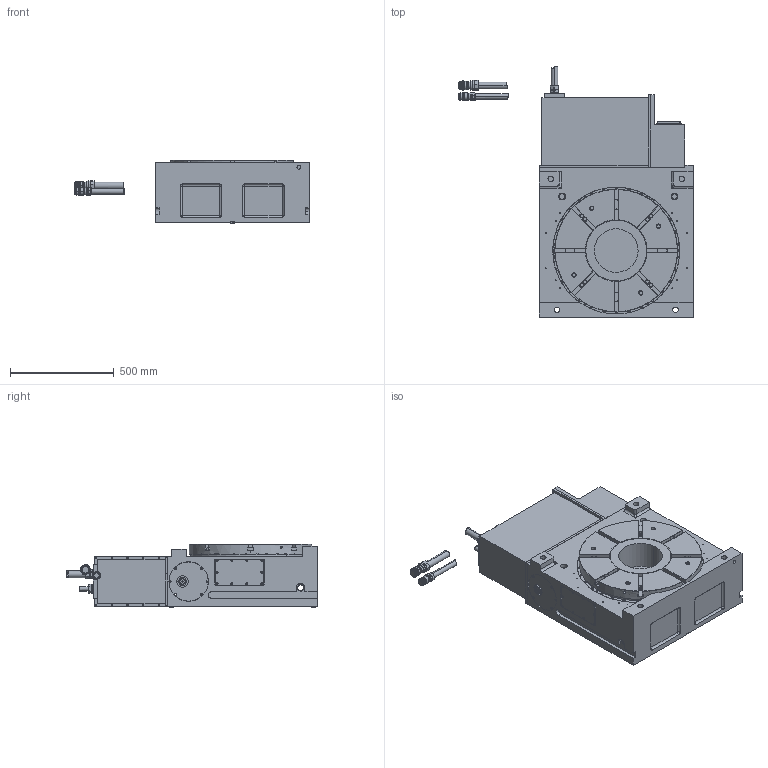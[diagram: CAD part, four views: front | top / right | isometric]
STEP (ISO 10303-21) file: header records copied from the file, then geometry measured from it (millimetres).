
FILE_DESCRIPTION (( 'STEP AP203' ), '1' );
FILE_NAME ('1524482 MDE600R-10.STEP', '2020-12-05T05:45:26', ( '' ), ( '' ), 'SwSTEP 2.0', 'SolidWorks 2019', '' );
FILE_SCHEMA (( 'CONFIG_CONTROL_DESIGN' ));
Length unit declared in the file: millimetre
Products named in the file (1): 1524482 MDE600R-10
Bounding box: 1127 x 1204.13 x 307 mm (x, y, z)
Surface area: 3349625 mm2 (no closed solid volume)
Topology: 0 solids, 44 shells, 980 faces, 3115 edges, 2173 vertices
Faces by surface type: cylinder 474, plane 387, cone 86, torus 17, sphere 10, bspline 6
Entity records: 36435 total; most frequent: CARTESIAN_POINT 8789, DIRECTION 6006, ORIENTED_EDGE 5070, EDGE_CURVE 3105, AXIS2_PLACEMENT_3D 2252, VERTEX_POINT 2173, LINE 1502, VECTOR 1502
